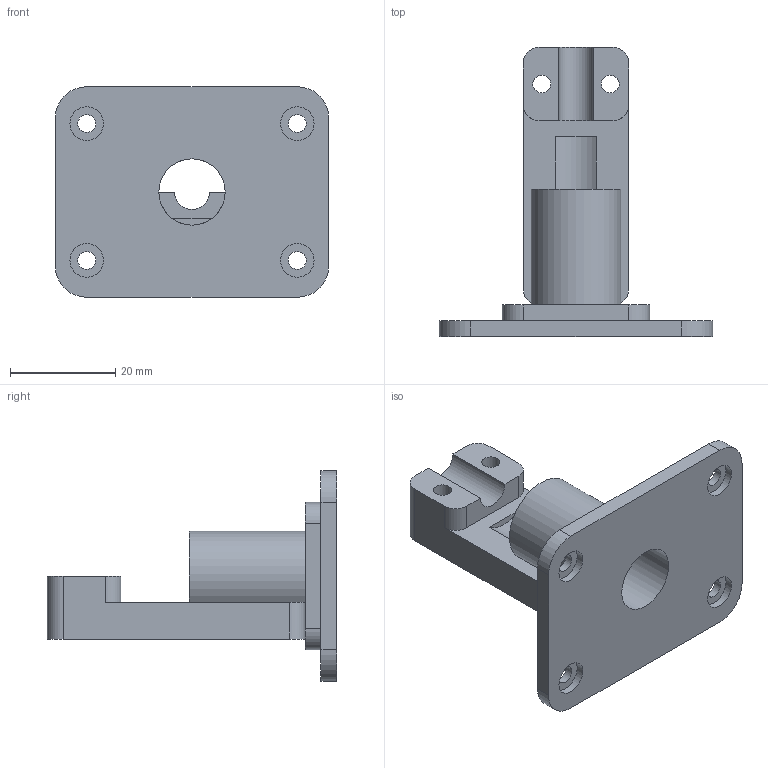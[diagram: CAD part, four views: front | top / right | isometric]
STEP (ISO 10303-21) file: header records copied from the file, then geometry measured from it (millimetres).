
FILE_DESCRIPTION(('FreeCAD Model'),'2;1');
FILE_NAME('Open CASCADE Shape Model','2026-10-18T22:43:11',('FreeCAD'),( 'FreeCAD'),'Open CASCADE STEP processor 7.8','FreeCAD','Unknown');
FILE_SCHEMA(('AUTOMOTIVE_DESIGN { 1 0 10303 214 1 1 1 1 }'));
Length unit declared in the file: millimetre
Products named in the file (1): Open CASCADE STEP translator 7.8 3
Bounding box: 52 x 55 x 40 mm (x, y, z)
Volume: 16613.8 mm3; surface area: 9676.6 mm2
Topology: 1 solids, 1 shells, 52 faces, 137 edges, 92 vertices
Faces by surface type: cylinder 27, plane 25
Full cylindrical faces by diameter (mm): 3.4 x6, 6.4 x4, 12.6 x1
Entity records: 1673 total; most frequent: DIRECTION 301, CARTESIAN_POINT 282, ORIENTED_EDGE 274, EDGE_CURVE 137, AXIS2_PLACEMENT_3D 111, VERTEX_POINT 92, LINE 79, VECTOR 79
